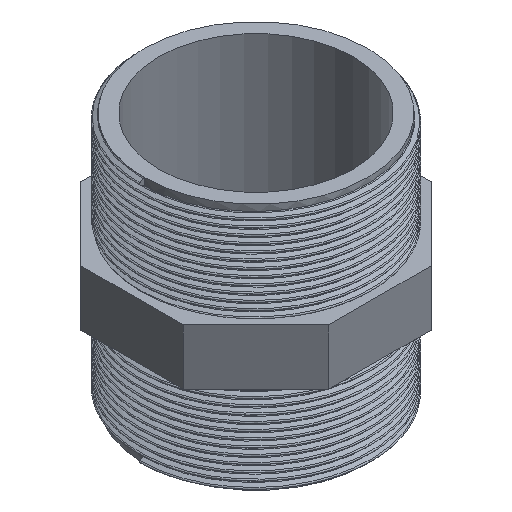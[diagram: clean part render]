
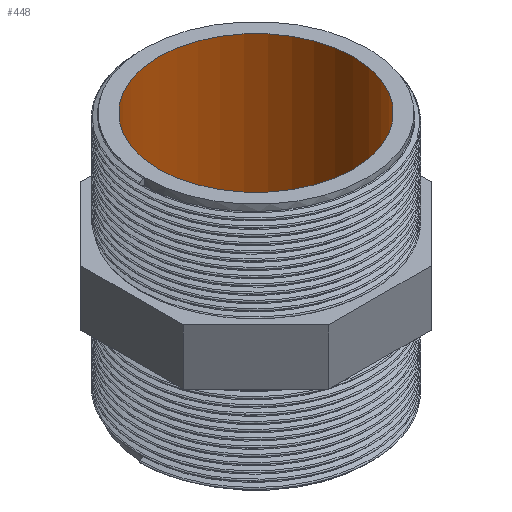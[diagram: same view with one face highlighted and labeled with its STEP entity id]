
A CAD part, isometric view. The second image highlights one B-rep face of the part: STEP entity #448.
In plain terms, the highlighted cylindrical face has radius 31.4 mm (diameter 62.8 mm), a full revolution.
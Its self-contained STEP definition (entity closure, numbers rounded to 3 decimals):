
#17=CYLINDRICAL_SURFACE('',#475,31.4);
#26=CIRCLE('',#476,31.4);
#27=CIRCLE('',#477,31.4);
#40=FACE_BOUND('',#119,.T.);
#89=FACE_OUTER_BOUND('',#118,.T.);
#118=EDGE_LOOP('',(#404));
#119=EDGE_LOOP('',(#405));
#222=VERTEX_POINT('',#10814);
#223=VERTEX_POINT('',#10816);
#284=EDGE_CURVE('',#222,#222,#26,.T.);
#285=EDGE_CURVE('',#223,#223,#27,.T.);
#404=ORIENTED_EDGE('',*,*,#284,.F.);
#405=ORIENTED_EDGE('',*,*,#285,.F.);
#448=ADVANCED_FACE('',(#89,#40),#17,.F.);
#475=AXIS2_PLACEMENT_3D('',#10813,#556,#557);
#476=AXIS2_PLACEMENT_3D('',#10815,#558,#559);
#477=AXIS2_PLACEMENT_3D('',#10817,#560,#561);
#556=DIRECTION('center_axis',(0.,0.,1.));
#557=DIRECTION('ref_axis',(-1.,0.,0.));
#558=DIRECTION('center_axis',(0.,0.,-1.));
#559=DIRECTION('ref_axis',(-1.,0.,0.));
#560=DIRECTION('center_axis',(0.,0.,1.));
#561=DIRECTION('ref_axis',(-1.,0.,0.));
#10813=CARTESIAN_POINT('Origin',(0.,0.,0.));
#10814=CARTESIAN_POINT('',(31.4,0.,40.));
#10815=CARTESIAN_POINT('Origin',(0.,0.,40.));
#10816=CARTESIAN_POINT('',(31.4,0.,-40.));
#10817=CARTESIAN_POINT('Origin',(0.,0.,-40.));
